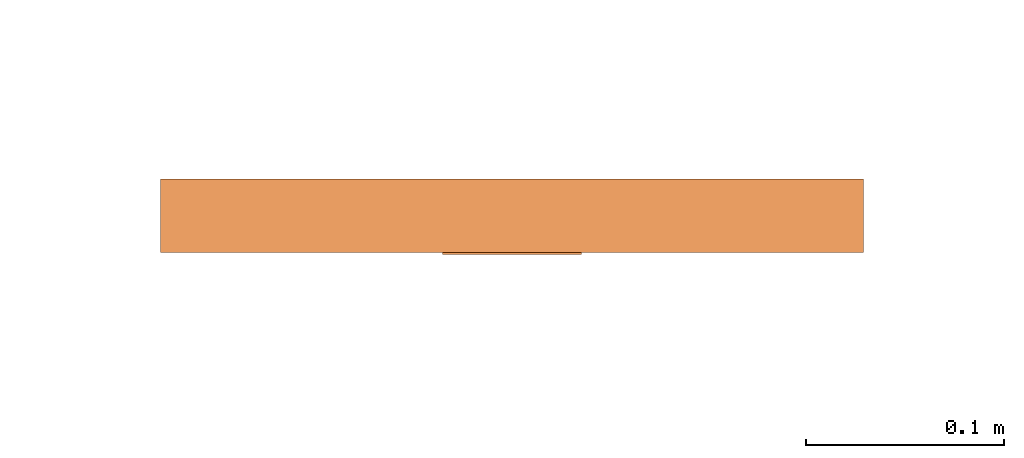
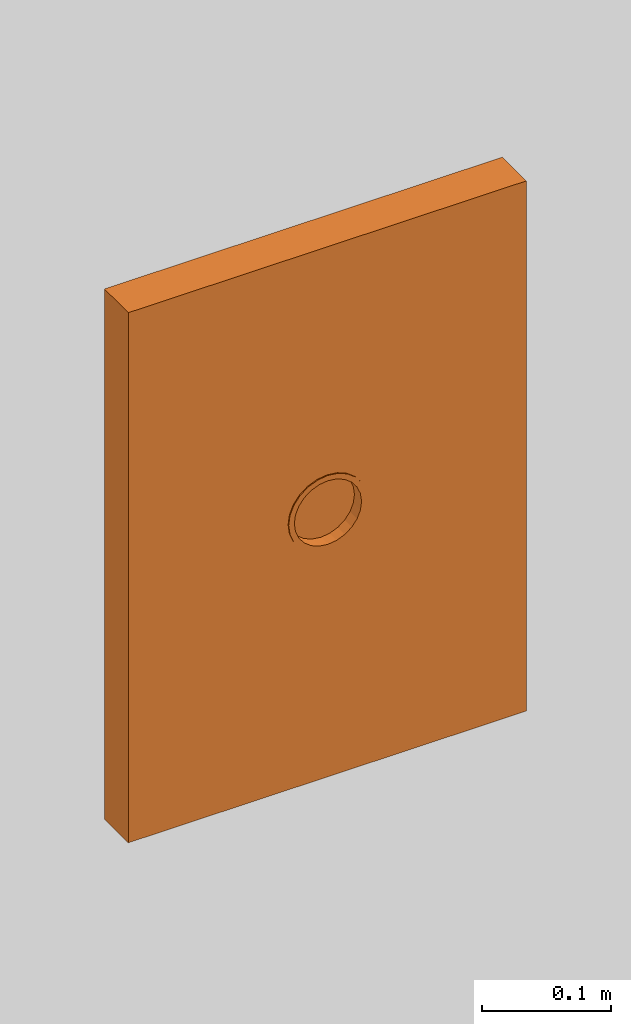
# One storey, part 90 of 197: 1 proxy.
"""IFC2X3 building model written with IfcOpenShell, lengths in metres."""

from ifc_helpers import new_model, entity, si_unit, converted_unit, direction, frame, origin, place, context, subcontext, project, spatial, faceted_brep, source, transform, mapped, material, material_list, type_object, type_shapes, element, save


model = new_model("IFC2X3")

# Units and contexts
model_context = context("Model", 3, precision=1e-05, world=origin(), true_north=direction((6.123031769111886e-17, 1.0)))
body_context = subcontext(model_context, "Body", "Model", "MODEL_VIEW")
ifc_project = project(units=[si_unit("LENGTHUNIT", "METRE"), converted_unit("PLANEANGLEUNIT", "DEGREE", entity("IfcPlaneAngleMeasure", 0.017453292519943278), si_unit("PLANEANGLEUNIT", "RADIAN"), dimensions=[0, 0, 0, 0, 0, 0, 0]), si_unit("AREAUNIT", "SQUARE_METRE")], contexts=[model_context])

# Site, building, storey
site_placement = place(None, origin())
site = spatial("IfcSite", under=ifc_project, at=site_placement, Name="Default", CompositionType="ELEMENT")
building_placement = place(site_placement, origin())
building = spatial("IfcBuilding", under=site, at=building_placement, CompositionType="ELEMENT")
storey_placement = place(building_placement, origin())
storey = spatial("IfcBuildingStorey", under=building, at=storey_placement, Name="Niveau 0", CompositionType="ELEMENT", Elevation=0.0)

# Proxy
ifc_material_1 = material(Name="BETCE-ANNEAU-CHROME")
ifc_material_2 = material(Name="BETCE-TABLEAU-BLANC")
ifc_material_list = material_list([ifc_material_1, ifc_material_2])
building_element_proxy_type = type_object("IfcBuildingElementProxyType", Name="Coffret mural 18 modules avec porte:54M-3R", PredefinedType="NOTDEFINED", material=ifc_material_list)
shared_shape = source(origin(), body_context, "Body", "Brep", [
    faceted_brep([(0.014999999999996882, -0.14149999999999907, -0.7759807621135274), (0.017499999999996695, -0.14149999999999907, -0.7803108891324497), (0.021124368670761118, -0.14149999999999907, -0.7775298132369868), (0.011382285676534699, -0.14149999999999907, -0.7774792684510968), (0.02474873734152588, -0.14149999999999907, -0.7747487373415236), (0.018106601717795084, -0.14149999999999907, -0.7735969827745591), (0.007764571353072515, -0.14149999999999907, -0.7789777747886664), (0.013279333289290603, -0.14149999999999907, -0.7820591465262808), (0.009058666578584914, -0.14149999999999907, -0.7838074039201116), (0.003882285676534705, -0.14149999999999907, -0.7794888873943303), (0.0, -0.14149999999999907, -0.7799999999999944), (0.004529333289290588, -0.14149999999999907, -0.7844037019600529), (0.0, -0.14149999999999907, -0.7849999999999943), (-0.0038822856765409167, -0.14149999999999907, -0.7794888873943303), (-0.007764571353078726, -0.14149999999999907, -0.7789777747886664), (-0.004529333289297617, -0.14149999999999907, -0.7844037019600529), (-0.009058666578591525, -0.14149999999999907, -0.7838074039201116), (-0.011382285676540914, -0.14149999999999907, -0.7774792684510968), (-0.0150000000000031, -0.14149999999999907, -0.7759807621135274), (-0.013279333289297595, -0.14149999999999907, -0.7820591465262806), (-0.017500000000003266, -0.14149999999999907, -0.7803108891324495), (-0.0181066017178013, -0.14149999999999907, -0.7735969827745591), (-0.02121320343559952, -0.14149999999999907, -0.7712132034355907), (-0.021124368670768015, -0.14149999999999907, -0.7775298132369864), (-0.024748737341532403, -0.14149999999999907, -0.7747487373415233), (-0.023596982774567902, -0.14149999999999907, -0.7681066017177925), (-0.02598076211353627, -0.14149999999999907, -0.7649999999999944), (-0.027529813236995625, -0.14149999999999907, -0.7711243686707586), (-0.030310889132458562, -0.14149999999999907, -0.7674999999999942), (-0.027479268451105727, -0.14149999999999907, -0.7613822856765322), (-0.02897777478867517, -0.14149999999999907, -0.75776457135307), (-0.032059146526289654, -0.14149999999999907, -0.7632793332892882), (-0.03380740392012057, -0.14149999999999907, -0.7590586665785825), (-0.02948888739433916, -0.14149999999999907, -0.7538822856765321), (-0.030000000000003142, -0.14149999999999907, -0.7499999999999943), (-0.034159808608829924, -0.14149999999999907, -0.7563818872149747), (-0.03500000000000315, -0.14149999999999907, -0.7499999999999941), (-0.02961106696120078, -0.14149999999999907, -0.7470457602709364), (-0.028977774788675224, -0.14149999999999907, -0.7422354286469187), (-0.034403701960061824, -0.14149999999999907, -0.7454706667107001), (-0.03380740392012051, -0.14149999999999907, -0.7409413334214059), (-0.027479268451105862, -0.14149999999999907, -0.7386177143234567), (-0.025980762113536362, -0.14149999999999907, -0.7349999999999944), (-0.03205914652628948, -0.14149999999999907, -0.7367206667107), (-0.03031088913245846, -0.14149999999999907, -0.7324999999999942), (-0.027529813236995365, -0.14149999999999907, -0.7288756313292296), (-0.024748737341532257, -0.14149999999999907, -0.7252512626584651), (-0.02359698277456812, -0.14149999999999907, -0.7318933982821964), (-0.02121320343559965, -0.14149999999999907, -0.7287867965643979), (-0.02112436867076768, -0.14149999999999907, -0.7224701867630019), (-0.01750000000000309, -0.14149999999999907, -0.7196891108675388), (-0.0181066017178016, -0.14149999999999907, -0.7264030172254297), (-0.015000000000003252, -0.14149999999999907, -0.724019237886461), (-0.013279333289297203, -0.14149999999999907, -0.717940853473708), (-0.009058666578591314, -0.14149999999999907, -0.7161925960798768), (-0.011382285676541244, -0.14149999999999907, -0.7225207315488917), (-0.007764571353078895, -0.14149999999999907, -0.7210222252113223), (-0.004529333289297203, -0.14149999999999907, -0.7155962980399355), (0.0, -0.14149999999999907, -0.7149999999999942), (-0.003882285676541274, -0.14149999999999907, -0.7205111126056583), (0.0, -0.14149999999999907, -0.7199999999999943), (0.004529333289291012, -0.14149999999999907, -0.7155962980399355), (0.00905866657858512, -0.14149999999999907, -0.7161925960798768), (0.0038822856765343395, -0.14149999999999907, -0.7205111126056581), (0.007764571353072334, -0.14149999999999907, -0.7210222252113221), (0.013279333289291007, -0.14149999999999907, -0.717940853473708), (0.017499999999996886, -0.14149999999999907, -0.719689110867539), (0.011382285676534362, -0.14149999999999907, -0.7225207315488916), (0.014999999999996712, -0.14149999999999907, -0.724019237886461), (0.02112436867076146, -0.14149999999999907, -0.7224701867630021), (0.024748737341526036, -0.14149999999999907, -0.7252512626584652), (0.018106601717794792, -0.14149999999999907, -0.7264030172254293), (0.02121320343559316, -0.14149999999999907, -0.7287867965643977), (0.02752981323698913, -0.14149999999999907, -0.7288756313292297), (0.030310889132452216, -0.14149999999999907, -0.7324999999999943), (0.023596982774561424, -0.14149999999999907, -0.7318933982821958), (0.025980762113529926, -0.14149999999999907, -0.7349999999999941), (0.032059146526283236, -0.14149999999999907, -0.7367206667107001), (0.03380740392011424, -0.14149999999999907, -0.740941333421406), (0.027479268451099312, -0.14149999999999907, -0.7386177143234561), (0.028977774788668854, -0.14149999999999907, -0.7422354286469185), (0.03415980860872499, -0.14149999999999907, -0.7436181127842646), (0.03499999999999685, -0.14149999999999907, -0.7499999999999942), (0.029488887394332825, -0.14149999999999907, -0.7461177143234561), (0.029999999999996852, -0.14149999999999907, -0.7499999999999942), (0.03440370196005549, -0.14149999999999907, -0.7545293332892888), (0.033807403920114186, -0.14149999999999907, -0.7590586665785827), (0.029611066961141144, -0.14149999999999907, -0.7529542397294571), (0.0289777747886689, -0.14149999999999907, -0.7577645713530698), (0.03205914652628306, -0.14149999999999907, -0.7632793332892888), (0.030310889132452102, -0.14149999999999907, -0.7674999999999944), (0.02747926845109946, -0.14149999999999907, -0.761382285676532), (0.02598076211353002, -0.14149999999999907, -0.7649999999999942), (0.023596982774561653, -0.14149999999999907, -0.7681066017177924), (0.02121320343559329, -0.14149999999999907, -0.7712132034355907), (0.02752981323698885, -0.14149999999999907, -0.7711243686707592), (0.014999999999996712, -0.14049999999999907, -0.724019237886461), (0.017499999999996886, -0.14049999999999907, -0.719689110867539), (0.02112436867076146, -0.14049999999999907, -0.7224701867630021), (0.011382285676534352, -0.14049999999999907, -0.7225207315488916), (0.024748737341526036, -0.14049999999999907, -0.7252512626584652), (0.018106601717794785, -0.14049999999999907, -0.7264030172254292), (0.007764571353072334, -0.14049999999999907, -0.7210222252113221), (0.013279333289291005, -0.14049999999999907, -0.717940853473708), (0.00905866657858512, -0.14049999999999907, -0.7161925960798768), (0.0038822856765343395, -0.14049999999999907, -0.7205111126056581), (0.0, -0.14049999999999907, -0.7199999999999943), (0.0045293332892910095, -0.14049999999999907, -0.7155962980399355), (0.0, -0.14049999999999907, -0.7149999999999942), (-0.0038822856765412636, -0.14049999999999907, -0.7205111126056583), (-0.007764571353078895, -0.14049999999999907, -0.7210222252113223), (-0.004529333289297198, -0.14049999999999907, -0.7155962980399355), (-0.009058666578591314, -0.14049999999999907, -0.7161925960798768), (-0.011382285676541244, -0.14049999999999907, -0.7225207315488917), (-0.015000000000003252, -0.14049999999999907, -0.724019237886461), (-0.013279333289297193, -0.14049999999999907, -0.717940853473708), (-0.01750000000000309, -0.14049999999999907, -0.7196891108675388), (-0.0181066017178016, -0.14049999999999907, -0.7264030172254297), (-0.02121320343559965, -0.14049999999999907, -0.7287867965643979), (-0.021124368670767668, -0.14049999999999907, -0.7224701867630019), (-0.024748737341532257, -0.14049999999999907, -0.7252512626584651), (-0.02359698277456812, -0.14049999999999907, -0.7318933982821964), (-0.025980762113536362, -0.14049999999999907, -0.7349999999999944), (-0.027529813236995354, -0.14049999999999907, -0.7288756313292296), (-0.03031088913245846, -0.14049999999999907, -0.7324999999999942), (-0.027479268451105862, -0.14049999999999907, -0.7386177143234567), (-0.028977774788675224, -0.14049999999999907, -0.7422354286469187), (-0.03205914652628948, -0.14049999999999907, -0.7367206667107), (-0.03380740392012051, -0.14049999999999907, -0.7409413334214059), (-0.029488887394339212, -0.14049999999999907, -0.7461177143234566), (-0.030000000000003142, -0.14049999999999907, -0.7499999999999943), (-0.034403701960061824, -0.14049999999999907, -0.7454706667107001), (-0.03500000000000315, -0.14049999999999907, -0.7499999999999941), (-0.02961106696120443, -0.14049999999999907, -0.7529542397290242), (-0.02897777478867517, -0.14049999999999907, -0.75776457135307), (-0.034403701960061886, -0.14049999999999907, -0.7545293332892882), (-0.03380740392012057, -0.14049999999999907, -0.7590586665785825), (-0.027479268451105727, -0.14049999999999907, -0.7613822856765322), (-0.02598076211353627, -0.14049999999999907, -0.7649999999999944), (-0.03205914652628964, -0.14049999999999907, -0.7632793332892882), (-0.030310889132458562, -0.14049999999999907, -0.7674999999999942), (-0.027529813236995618, -0.14049999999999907, -0.7711243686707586), (-0.024748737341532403, -0.14049999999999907, -0.7747487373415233), (-0.023596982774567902, -0.14049999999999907, -0.7681066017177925), (-0.02121320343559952, -0.14049999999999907, -0.7712132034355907), (-0.021124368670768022, -0.14049999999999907, -0.7775298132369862), (-0.017500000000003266, -0.14049999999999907, -0.7803108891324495), (-0.018106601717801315, -0.14049999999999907, -0.7735969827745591), (-0.0150000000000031, -0.14049999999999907, -0.7759807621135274), (-0.013279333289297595, -0.14049999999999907, -0.7820591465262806), (-0.009058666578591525, -0.14049999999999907, -0.7838074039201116), (-0.011382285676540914, -0.14049999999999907, -0.7774792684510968), (-0.007764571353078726, -0.14049999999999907, -0.7789777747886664), (-0.004529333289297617, -0.14049999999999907, -0.7844037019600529), (0.0, -0.14049999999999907, -0.7849999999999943), (-0.003882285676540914, -0.14049999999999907, -0.7794888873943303), (0.0, -0.14049999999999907, -0.7799999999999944), (0.004529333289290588, -0.14049999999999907, -0.7844037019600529), (0.009058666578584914, -0.14049999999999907, -0.7838074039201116), (0.0038822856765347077, -0.14049999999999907, -0.7794888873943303), (0.007764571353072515, -0.14049999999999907, -0.7789777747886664), (0.013279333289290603, -0.14049999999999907, -0.7820591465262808), (0.017499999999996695, -0.14049999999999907, -0.7803108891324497), (0.011382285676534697, -0.14049999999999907, -0.7774792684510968), (0.014999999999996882, -0.14049999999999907, -0.7759807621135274), (0.021124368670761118, -0.14049999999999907, -0.7775298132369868), (0.02474873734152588, -0.14049999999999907, -0.7747487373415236), (0.018106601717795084, -0.14049999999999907, -0.7735969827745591), (0.02121320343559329, -0.14049999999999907, -0.7712132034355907), (0.02752981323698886, -0.14049999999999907, -0.7711243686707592), (0.030310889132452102, -0.14049999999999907, -0.7674999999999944), (0.02359698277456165, -0.14049999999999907, -0.7681066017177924), (0.02598076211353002, -0.14049999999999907, -0.7649999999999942), (0.03205914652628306, -0.14049999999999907, -0.7632793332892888), (0.033807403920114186, -0.14049999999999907, -0.7590586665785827), (0.027479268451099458, -0.14049999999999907, -0.761382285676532), (0.0289777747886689, -0.14049999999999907, -0.7577645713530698), (0.034403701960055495, -0.14049999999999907, -0.7545293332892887), (0.03499999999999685, -0.14049999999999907, -0.7499999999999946), (0.029488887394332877, -0.14049999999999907, -0.7538822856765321), (0.029999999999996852, -0.14049999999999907, -0.7499999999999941), (0.03440370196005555, -0.14049999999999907, -0.7454706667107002), (0.03380740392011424, -0.14049999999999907, -0.740941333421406), (0.029611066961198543, -0.14049999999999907, -0.7470457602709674), (0.028977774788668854, -0.14049999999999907, -0.7422354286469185), (0.032059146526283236, -0.14049999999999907, -0.7367206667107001), (0.030310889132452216, -0.14049999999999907, -0.7324999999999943), (0.027479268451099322, -0.14049999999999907, -0.7386177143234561), (0.025980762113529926, -0.14049999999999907, -0.7349999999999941), (0.02359698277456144, -0.14049999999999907, -0.7318933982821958), (0.02121320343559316, -0.14049999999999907, -0.7287867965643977), (0.027529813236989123, -0.14049999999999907, -0.7288756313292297)], [[[0, 1, 2]], [[1, 0, 3]], [[0, 2, 4]], [[4, 5, 0]], [[1, 3, 6]], [[6, 7, 1]], [[6, 8, 7]], [[8, 6, 9]], [[8, 9, 10]], [[10, 11, 8]], [[10, 12, 11]], [[12, 10, 13]], [[12, 13, 14]], [[14, 15, 12]], [[14, 16, 15]], [[16, 14, 17]], [[16, 17, 18]], [[18, 19, 16]], [[18, 20, 19]], [[20, 18, 21]], [[20, 21, 22]], [[22, 23, 20]], [[22, 24, 23]], [[24, 22, 25]], [[24, 25, 26]], [[26, 27, 24]], [[26, 28, 27]], [[28, 26, 29]], [[28, 29, 30]], [[30, 31, 28]], [[30, 32, 31]], [[32, 30, 33]], [[32, 33, 34]], [[34, 35, 32]], [[34, 36, 35]], [[36, 34, 37]], [[36, 37, 38]], [[38, 39, 36]], [[38, 40, 39]], [[40, 38, 41]], [[40, 41, 42]], [[42, 43, 40]], [[42, 44, 43]], [[42, 45, 44]], [[42, 46, 45]], [[46, 42, 47]], [[46, 47, 48]], [[48, 49, 46]], [[48, 50, 49]], [[50, 48, 51]], [[50, 51, 52]], [[52, 53, 50]], [[52, 54, 53]], [[54, 52, 55]], [[54, 55, 56]], [[56, 57, 54]], [[56, 58, 57]], [[58, 56, 59]], [[58, 59, 60]], [[60, 61, 58]], [[60, 62, 61]], [[62, 60, 63]], [[62, 63, 64]], [[64, 65, 62]], [[64, 66, 65]], [[66, 64, 67]], [[66, 67, 68]], [[68, 69, 66]], [[68, 70, 69]], [[70, 68, 71]], [[70, 71, 72]], [[72, 73, 70]], [[72, 74, 73]], [[74, 72, 75]], [[74, 75, 76]], [[76, 77, 74]], [[76, 78, 77]], [[78, 76, 79]], [[78, 79, 80]], [[80, 81, 78]], [[80, 82, 81]], [[82, 80, 83]], [[82, 83, 84]], [[84, 85, 82]], [[84, 86, 85]], [[86, 84, 87]], [[86, 87, 88]], [[88, 89, 86]], [[88, 90, 89]], [[90, 88, 91]], [[90, 91, 92]], [[90, 92, 93]], [[90, 93, 94]], [[4, 94, 5]], [[94, 4, 95]], [[94, 95, 90]], [[96, 97, 98]], [[97, 96, 99]], [[96, 98, 100]], [[100, 101, 96]], [[97, 99, 102]], [[102, 103, 97]], [[102, 104, 103]], [[104, 102, 105]], [[104, 105, 106]], [[106, 107, 104]], [[106, 108, 107]], [[108, 106, 109]], [[108, 109, 110]], [[110, 111, 108]], [[110, 112, 111]], [[112, 110, 113]], [[112, 113, 114]], [[114, 115, 112]], [[114, 116, 115]], [[116, 114, 117]], [[116, 117, 118]], [[118, 119, 116]], [[118, 120, 119]], [[120, 118, 121]], [[120, 121, 122]], [[122, 123, 120]], [[122, 124, 123]], [[124, 122, 125]], [[124, 125, 126]], [[126, 127, 124]], [[126, 128, 127]], [[128, 126, 129]], [[128, 129, 130]], [[130, 131, 128]], [[130, 132, 131]], [[132, 130, 133]], [[132, 133, 134]], [[134, 135, 132]], [[134, 136, 135]], [[136, 134, 137]], [[136, 137, 138]], [[138, 139, 136]], [[138, 140, 139]], [[138, 141, 140]], [[138, 142, 141]], [[142, 138, 143]], [[142, 143, 144]], [[144, 145, 142]], [[144, 146, 145]], [[146, 144, 147]], [[146, 147, 148]], [[148, 149, 146]], [[148, 150, 149]], [[150, 148, 151]], [[150, 151, 152]], [[152, 153, 150]], [[152, 154, 153]], [[154, 152, 155]], [[154, 155, 156]], [[156, 157, 154]], [[156, 158, 157]], [[158, 156, 159]], [[158, 159, 160]], [[160, 161, 158]], [[160, 162, 161]], [[162, 160, 163]], [[162, 163, 164]], [[164, 165, 162]], [[164, 166, 165]], [[166, 164, 167]], [[166, 167, 168]], [[168, 169, 166]], [[168, 170, 169]], [[170, 168, 171]], [[170, 171, 172]], [[172, 173, 170]], [[172, 174, 173]], [[174, 172, 175]], [[174, 175, 176]], [[176, 177, 174]], [[176, 178, 177]], [[178, 176, 179]], [[178, 179, 180]], [[180, 181, 178]], [[180, 182, 181]], [[182, 180, 183]], [[182, 183, 184]], [[184, 185, 182]], [[184, 186, 185]], [[186, 184, 187]], [[186, 187, 188]], [[186, 188, 189]], [[186, 189, 190]], [[100, 190, 101]], [[190, 100, 191]], [[190, 191, 186]], [[136, 32, 35, 36, 132, 135]], [[85, 86, 174, 177, 178, 82]], [[136, 139, 140, 28, 31, 32]], [[142, 145, 146, 20, 23, 24]], [[173, 174, 86, 89, 90, 170]], [[140, 141, 142, 24, 27, 28]], [[146, 149, 150, 16, 19, 20]], [[12, 15, 16, 150, 153, 154]], [[154, 157, 158, 8, 11, 12]], [[2, 1, 162, 165, 166, 4]], [[169, 170, 90, 95, 4, 166]], [[158, 161, 162, 1, 7, 8]], [[182, 78, 81, 82, 178, 181]], [[39, 40, 128, 131, 132, 36]], [[182, 185, 186, 74, 77, 78]], [[100, 98, 97, 66, 69, 70]], [[127, 128, 40, 43, 44, 124]], [[186, 191, 100, 70, 73, 74]], [[97, 103, 104, 62, 65, 66]], [[58, 61, 62, 104, 107, 108]], [[108, 111, 112, 54, 57, 58]], [[49, 50, 116, 119, 120, 46]], [[123, 124, 44, 45, 46, 120]], [[112, 115, 116, 50, 53, 54]], [[129, 126, 38, 37, 34, 130]], [[125, 122, 42, 41, 38, 126]], [[51, 48, 118, 117, 114, 52]], [[63, 60, 106, 105, 102, 64]], [[183, 180, 84, 83, 80, 184]], [[48, 47, 42, 122, 121, 118]], [[55, 52, 114, 113, 110, 56]], [[59, 56, 110, 109, 106, 60]], [[99, 96, 68, 67, 64, 102]], [[189, 188, 76, 75, 72, 190]], [[187, 184, 80, 79, 76, 188]], [[101, 190, 72, 71, 68, 96]], [[179, 176, 88, 87, 84, 180]], [[175, 172, 92, 91, 88, 176]], [[5, 94, 168, 167, 164, 0]], [[13, 10, 156, 155, 152, 14]], [[133, 130, 34, 33, 30, 134]], [[94, 93, 92, 172, 171, 168]], [[3, 0, 164, 163, 160, 6]], [[9, 6, 160, 159, 156, 10]], [[151, 148, 18, 17, 14, 152]], [[143, 138, 26, 25, 22, 144]], [[137, 134, 30, 29, 26, 138]], [[147, 144, 22, 21, 18, 148]]]),
    faceted_brep([(0.17750000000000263, -0.14049999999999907, -0.49999999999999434), (0.025980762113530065, -0.14049999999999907, -0.7349999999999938), (0.028977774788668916, -0.14049999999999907, -0.742235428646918), (0.021213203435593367, -0.14049999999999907, -0.7287867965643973), (0.029999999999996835, -0.14049999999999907, -0.7499999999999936), (0.014999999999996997, -0.14049999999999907, -0.7240192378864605), (0.0077645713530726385, -0.14049999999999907, -0.7210222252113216), (0.0, -0.14049999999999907, -0.7199999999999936), (-0.17749999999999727, -0.14049999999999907, -0.49999999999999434), (0.17750000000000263, -0.14049999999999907, -1.0), (-0.007764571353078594, -0.14049999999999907, -0.7210222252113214), (-0.015000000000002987, -0.14049999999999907, -0.7240192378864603), (-0.021213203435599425, -0.14049999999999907, -0.728786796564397), (-0.025980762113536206, -0.14049999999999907, -0.7349999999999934), (-0.028977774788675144, -0.14049999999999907, -0.7422354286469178), (-0.030000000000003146, -0.14049999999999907, -0.7499999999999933), (-0.17749999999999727, -0.14049999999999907, -1.0), (-0.028977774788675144, -0.14049999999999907, -0.7577645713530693), (-0.025980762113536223, -0.14049999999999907, -0.7649999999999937), (-0.02121320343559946, -0.14049999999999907, -0.7712132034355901), (-0.01500000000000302, -0.14049999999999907, -0.7759807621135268), (-0.007764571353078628, -0.14049999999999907, -0.7789777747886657), (0.0, -0.14049999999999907, -0.7799999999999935), (0.028977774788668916, -0.14049999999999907, -0.7577645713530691), (0.025980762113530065, -0.14049999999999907, -0.7649999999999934), (0.021213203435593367, -0.14049999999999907, -0.7712132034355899), (0.014999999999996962, -0.14049999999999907, -0.7759807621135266), (0.007764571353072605, -0.14049999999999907, -0.7789777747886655), (-0.17749999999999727, -0.10349999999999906, -1.0), (-0.17749999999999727, -0.10349999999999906, -0.49999999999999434), (0.17750000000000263, -0.10349999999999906, -0.49999999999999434), (0.17750000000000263, -0.10349999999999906, -1.0), (-0.021213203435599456, -0.13049999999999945, -0.7712132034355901), (-0.01500000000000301, -0.13049999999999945, -0.7759807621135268), (-0.007764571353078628, -0.13049999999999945, -0.7789777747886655), (0.0, -0.13049999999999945, -0.7799999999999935), (0.0077645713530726, -0.13049999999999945, -0.7789777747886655), (0.014999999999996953, -0.13049999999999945, -0.7759807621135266), (0.02121320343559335, -0.13049999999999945, -0.7712132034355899), (0.025980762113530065, -0.13049999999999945, -0.7649999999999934), (0.028977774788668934, -0.13049999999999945, -0.7577645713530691), (0.029999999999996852, -0.13049999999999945, -0.7499999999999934), (0.02897777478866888, -0.13049999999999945, -0.7422354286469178), (0.02598076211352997, -0.13049999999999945, -0.7349999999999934), (0.02121320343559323, -0.13049999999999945, -0.728786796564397), (0.014999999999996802, -0.13049999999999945, -0.7240192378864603), (0.007764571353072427, -0.13049999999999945, -0.7210222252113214), (0.0, -0.13049999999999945, -0.7199999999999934), (-0.007764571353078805, -0.13049999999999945, -0.7210222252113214), (-0.015000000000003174, -0.13049999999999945, -0.7240192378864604), (-0.021213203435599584, -0.13049999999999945, -0.728786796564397), (-0.025980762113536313, -0.13049999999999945, -0.7349999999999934), (-0.028977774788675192, -0.13049999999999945, -0.7422354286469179), (-0.030000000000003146, -0.13049999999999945, -0.7499999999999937), (-0.028977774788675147, -0.13049999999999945, -0.7577645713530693), (-0.02598076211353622, -0.13049999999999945, -0.7649999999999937)], [[[0, 1, 2]], [[1, 0, 3]], [[0, 2, 4]], [[5, 3, 0]], [[6, 5, 0]], [[7, 6, 0]], [[0, 8, 7]], [[4, 9, 0]], [[10, 7, 8]], [[11, 10, 8]], [[12, 11, 8]], [[8, 13, 12]], [[13, 8, 14]], [[15, 14, 8]], [[8, 16, 15]], [[17, 15, 16]], [[18, 17, 16]], [[16, 19, 18]], [[19, 16, 20]], [[21, 20, 16]], [[22, 21, 16]], [[22, 16, 9]], [[9, 4, 23]], [[9, 23, 24]], [[24, 25, 9]], [[25, 26, 9]], [[26, 27, 9]], [[9, 27, 22]], [[28, 29, 30, 31]], [[8, 0, 30, 29]], [[16, 8, 29, 28]], [[9, 16, 28, 31]], [[0, 9, 31, 30]], [[32, 33, 34, 35, 36, 37, 38, 39, 40, 41, 42, 43, 44, 45, 46, 47, 48, 49, 50, 51, 52, 53, 54, 55]], [[39, 24, 23, 40]], [[40, 23, 4, 41]], [[36, 27, 26, 37]], [[37, 26, 25, 38]], [[38, 25, 24, 39]], [[27, 36, 35, 22]], [[32, 19, 20, 33]], [[33, 20, 21, 34]], [[53, 15, 17, 54]], [[54, 17, 18, 55]], [[55, 18, 19, 32]], [[22, 35, 34, 21]], [[51, 13, 14, 52]], [[52, 14, 15, 53]], [[48, 10, 11, 49]], [[49, 11, 12, 50]], [[50, 12, 13, 51]], [[10, 48, 47, 7]], [[44, 3, 5, 45]], [[45, 5, 6, 46]], [[41, 4, 2, 42]], [[42, 2, 1, 43]], [[43, 1, 3, 44]], [[7, 47, 46, 6]]]),
])
type_shapes(building_element_proxy_type, [shared_shape])
proxy_placement = place(storey_placement, frame((-537.894595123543, -51.152644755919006, 2.0)))
element("IfcBuildingElementProxy", 1, at=proxy_placement, inside=storey, type_object=building_element_proxy_type, material=ifc_material_list, Name="Coffret mural 18 modules avec porte:54M-3R", ObjectType="Coffret mural 18 modules avec porte:54M-3R", context=body_context, shape_type="MappedRepresentation", body=[
    mapped(shared_shape, transform((0.0, 0.0, 0.0), scale=1.0)),
])

save(model, "model.ifc")
